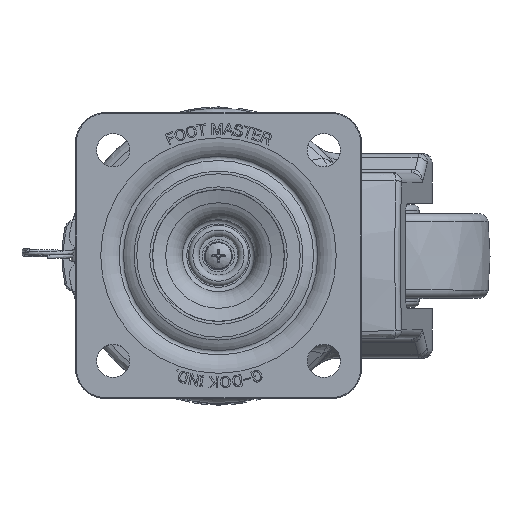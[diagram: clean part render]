
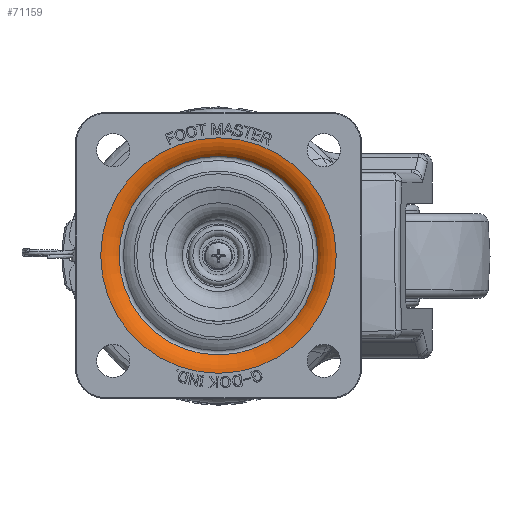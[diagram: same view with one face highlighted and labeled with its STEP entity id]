
A CAD part, top view. The second image highlights one B-rep face of the part: STEP entity #71159.
In plain terms, the highlighted toroidal (fillet/blend) face has major radius 39.119 mm and minor radius 8 mm.
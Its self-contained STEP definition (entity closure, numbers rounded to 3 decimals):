
#1990=TOROIDAL_SURFACE('',#77033,39.119,8.);
#9913=FACE_OUTER_BOUND('',#14120,.T.);
#14120=EDGE_LOOP('',(#59729,#59730,#59731,#59732,#59733,#59734));
#28938=CIRCLE('',#76943,39.119);
#28939=CIRCLE('',#76944,39.119);
#28986=CIRCLE('',#77034,8.);
#28987=CIRCLE('',#77035,33.013);
#28988=CIRCLE('',#77036,33.013);
#34213=VERTEX_POINT('',#132625);
#34214=VERTEX_POINT('',#132626);
#34268=VERTEX_POINT('',#132811);
#34269=VERTEX_POINT('',#132813);
#43194=EDGE_CURVE('',#34213,#34214,#28938,.T.);
#43195=EDGE_CURVE('',#34214,#34213,#28939,.T.);
#43282=EDGE_CURVE('',#34214,#34268,#28986,.T.);
#43283=EDGE_CURVE('',#34268,#34269,#28987,.T.);
#43284=EDGE_CURVE('',#34269,#34268,#28988,.T.);
#59729=ORIENTED_EDGE('',*,*,#43194,.T.);
#59730=ORIENTED_EDGE('',*,*,#43282,.T.);
#59731=ORIENTED_EDGE('',*,*,#43283,.T.);
#59732=ORIENTED_EDGE('',*,*,#43284,.T.);
#59733=ORIENTED_EDGE('',*,*,#43282,.F.);
#59734=ORIENTED_EDGE('',*,*,#43195,.T.);
#71159=ADVANCED_FACE('',(#9913),#1990,.T.);
#76943=AXIS2_PLACEMENT_3D('',#132627,#90442,#90443);
#76944=AXIS2_PLACEMENT_3D('',#132628,#90444,#90445);
#77033=AXIS2_PLACEMENT_3D('',#132810,#90662,#90663);
#77034=AXIS2_PLACEMENT_3D('',#132812,#90664,#90665);
#77035=AXIS2_PLACEMENT_3D('',#132814,#90666,#90667);
#77036=AXIS2_PLACEMENT_3D('',#132815,#90668,#90669);
#90442=DIRECTION('center_axis',(0.,0.,1.));
#90443=DIRECTION('ref_axis',(-1.,0.,0.));
#90444=DIRECTION('center_axis',(0.,0.,1.));
#90445=DIRECTION('ref_axis',(-1.,0.,0.));
#90662=DIRECTION('center_axis',(0.,0.,-1.));
#90663=DIRECTION('ref_axis',(-1.,0.,0.));
#90664=DIRECTION('center_axis',(0.,-1.,0.));
#90665=DIRECTION('ref_axis',(1.,0.,0.));
#90666=DIRECTION('center_axis',(0.,0.,-1.));
#90667=DIRECTION('ref_axis',(1.,0.,0.));
#90668=DIRECTION('center_axis',(0.,0.,-1.));
#90669=DIRECTION('ref_axis',(1.,0.,0.));
#132625=CARTESIAN_POINT('',(-39.119,0.,0.));
#132626=CARTESIAN_POINT('',(39.119,0.,0.));
#132627=CARTESIAN_POINT('Origin',(0.,0.,0.));
#132628=CARTESIAN_POINT('Origin',(0.,0.,0.));
#132810=CARTESIAN_POINT('Origin',(0.,0.,-8.));
#132811=CARTESIAN_POINT('',(33.013,0.,-2.831));
#132812=CARTESIAN_POINT('Origin',(39.119,0.,
-8.));
#132813=CARTESIAN_POINT('',(-33.013,0.,-2.831));
#132814=CARTESIAN_POINT('Origin',(0.,0.,-2.831));
#132815=CARTESIAN_POINT('Origin',(0.,0.,-2.831));
